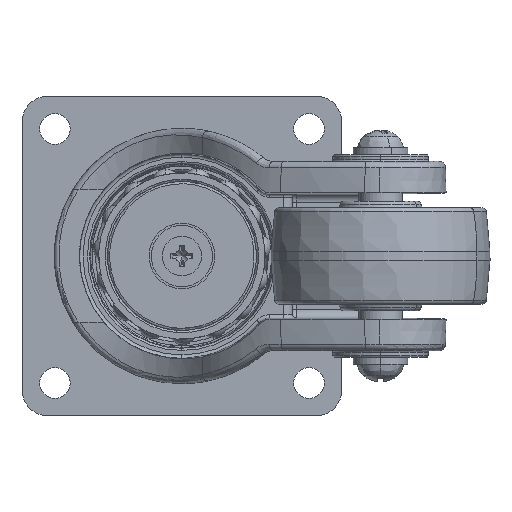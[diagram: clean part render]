
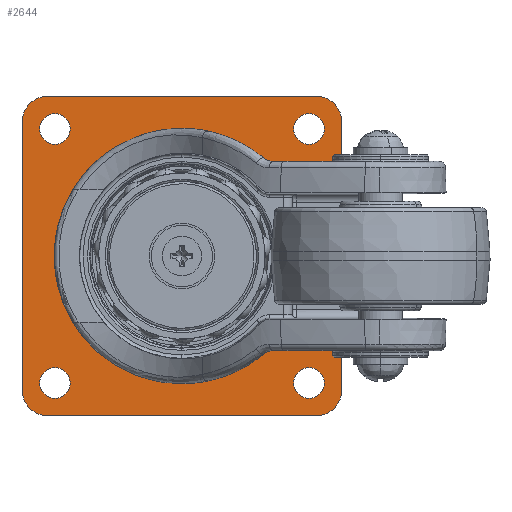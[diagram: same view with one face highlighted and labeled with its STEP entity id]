
A CAD part, front view. The second image highlights one B-rep face of the part: STEP entity #2644.
In plain terms, the highlighted planar face has unit normal (0, -1, 0).
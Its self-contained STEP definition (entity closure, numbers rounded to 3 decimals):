
#1548=PLANE('',#13444);
#2644=ADVANCED_FACE('',(#3355,#3356,#3357,#3358,#3359,#3360),#1548,.T.);
#3355=FACE_BOUND('',#3721,.T.);
#3356=FACE_BOUND('',#3722,.T.);
#3357=FACE_BOUND('',#3723,.T.);
#3358=FACE_BOUND('',#3724,.T.);
#3359=FACE_BOUND('',#3725,.T.);
#3360=FACE_BOUND('',#3726,.T.);
#3721=EDGE_LOOP('',(#6238,#6239));
#3722=EDGE_LOOP('',(#6240,#6241));
#3723=EDGE_LOOP('',(#6242,#6243));
#3724=EDGE_LOOP('',(#6244,#6245));
#3725=EDGE_LOOP('',(#6246,#6247));
#3726=EDGE_LOOP('',(#6248,#6249,#6250,#6251,#6252,#6253,#6254,#6255,#6256,
#6257,#6258,#6259));
#4543=B_SPLINE_CURVE_WITH_KNOTS('',3,(#24756,#24757,#24758,#24759),
 .UNSPECIFIED.,.F.,.F.,(4,4),(0.,1.),.UNSPECIFIED.);
#4544=B_SPLINE_CURVE_WITH_KNOTS('',3,(#24762,#24763,#24764,#24765),
 .UNSPECIFIED.,.F.,.F.,(4,4),(0.,1.),.UNSPECIFIED.);
#4545=B_SPLINE_CURVE_WITH_KNOTS('',3,(#24768,#24769,#24770,#24771),
 .UNSPECIFIED.,.F.,.F.,(4,4),(0.,1.),.UNSPECIFIED.);
#4546=B_SPLINE_CURVE_WITH_KNOTS('',3,(#24774,#24775,#24776,#24777),
 .UNSPECIFIED.,.F.,.F.,(4,4),(0.,1.),.UNSPECIFIED.);
#6238=ORIENTED_EDGE('',*,*,#10315,.F.);
#6239=ORIENTED_EDGE('',*,*,#10614,.F.);
#6240=ORIENTED_EDGE('',*,*,#10341,.T.);
#6241=ORIENTED_EDGE('',*,*,#10650,.T.);
#6242=ORIENTED_EDGE('',*,*,#10345,.T.);
#6243=ORIENTED_EDGE('',*,*,#10651,.T.);
#6244=ORIENTED_EDGE('',*,*,#10349,.T.);
#6245=ORIENTED_EDGE('',*,*,#10652,.T.);
#6246=ORIENTED_EDGE('',*,*,#10353,.T.);
#6247=ORIENTED_EDGE('',*,*,#10653,.T.);
#6248=ORIENTED_EDGE('',*,*,#10654,.T.);
#6249=ORIENTED_EDGE('',*,*,#10355,.T.);
#6250=ORIENTED_EDGE('',*,*,#10655,.T.);
#6251=ORIENTED_EDGE('',*,*,#10656,.T.);
#6252=ORIENTED_EDGE('',*,*,#10367,.T.);
#6253=ORIENTED_EDGE('',*,*,#10657,.T.);
#6254=ORIENTED_EDGE('',*,*,#10658,.T.);
#6255=ORIENTED_EDGE('',*,*,#10363,.T.);
#6256=ORIENTED_EDGE('',*,*,#10659,.T.);
#6257=ORIENTED_EDGE('',*,*,#10660,.T.);
#6258=ORIENTED_EDGE('',*,*,#10359,.T.);
#6259=ORIENTED_EDGE('',*,*,#10661,.T.);
#9020=VERTEX_POINT('',#22671);
#9021=VERTEX_POINT('',#22672);
#9037=VERTEX_POINT('',#22741);
#9038=VERTEX_POINT('',#22743);
#9041=VERTEX_POINT('',#22750);
#9042=VERTEX_POINT('',#22752);
#9045=VERTEX_POINT('',#22759);
#9046=VERTEX_POINT('',#22761);
#9049=VERTEX_POINT('',#22768);
#9050=VERTEX_POINT('',#22770);
#9051=VERTEX_POINT('',#22774);
#9052=VERTEX_POINT('',#22775);
#9055=VERTEX_POINT('',#22786);
#9056=VERTEX_POINT('',#22787);
#9059=VERTEX_POINT('',#22798);
#9060=VERTEX_POINT('',#22799);
#9063=VERTEX_POINT('',#22810);
#9064=VERTEX_POINT('',#22811);
#9197=VERTEX_POINT('',#24755);
#9198=VERTEX_POINT('',#24760);
#9199=VERTEX_POINT('',#24766);
#9200=VERTEX_POINT('',#24772);
#10315=EDGE_CURVE('',#9020,#9021,#12062,.T.);
#10341=EDGE_CURVE('',#9038,#9037,#12083,.T.);
#10345=EDGE_CURVE('',#9042,#9041,#12085,.T.);
#10349=EDGE_CURVE('',#9046,#9045,#12087,.T.);
#10353=EDGE_CURVE('',#9050,#9049,#12089,.T.);
#10355=EDGE_CURVE('',#9051,#9052,#12090,.T.);
#10359=EDGE_CURVE('',#9055,#9056,#12092,.T.);
#10363=EDGE_CURVE('',#9059,#9060,#12094,.T.);
#10367=EDGE_CURVE('',#9063,#9064,#12096,.T.);
#10614=EDGE_CURVE('',#9021,#9020,#12193,.T.);
#10650=EDGE_CURVE('',#9037,#9038,#12229,.T.);
#10651=EDGE_CURVE('',#9041,#9042,#12230,.T.);
#10652=EDGE_CURVE('',#9045,#9046,#12231,.T.);
#10653=EDGE_CURVE('',#9049,#9050,#12232,.T.);
#10654=EDGE_CURVE('',#9197,#9051,#12233,.T.);
#10655=EDGE_CURVE('',#9052,#9198,#4543,.T.);
#10656=EDGE_CURVE('',#9198,#9063,#12234,.T.);
#10657=EDGE_CURVE('',#9064,#9199,#4544,.T.);
#10658=EDGE_CURVE('',#9199,#9059,#12235,.T.);
#10659=EDGE_CURVE('',#9060,#9200,#4545,.T.);
#10660=EDGE_CURVE('',#9200,#9055,#12236,.T.);
#10661=EDGE_CURVE('',#9056,#9197,#4546,.T.);
#12062=CIRCLE('',#13131,28.);
#12083=CIRCLE('',#13156,3.5);
#12085=CIRCLE('',#13159,3.5);
#12087=CIRCLE('',#13162,3.5);
#12089=CIRCLE('',#13165,3.5);
#12090=CIRCLE('',#13167,6.);
#12092=CIRCLE('',#13170,6.);
#12094=CIRCLE('',#13173,6.);
#12096=CIRCLE('',#13176,6.);
#12193=CIRCLE('',#13380,28.);
#12229=CIRCLE('',#13436,3.5);
#12230=CIRCLE('',#13437,3.5);
#12231=CIRCLE('',#13438,3.5);
#12232=CIRCLE('',#13439,3.5);
#12233=CIRCLE('',#13440,6.);
#12234=CIRCLE('',#13441,6.);
#12235=CIRCLE('',#13442,6.);
#12236=CIRCLE('',#13443,6.);
#13131=AXIS2_PLACEMENT_3D('',#22670,#15223,#15224);
#13156=AXIS2_PLACEMENT_3D('',#22742,#15276,#15277);
#13159=AXIS2_PLACEMENT_3D('',#22751,#15284,#15285);
#13162=AXIS2_PLACEMENT_3D('',#22760,#15292,#15293);
#13165=AXIS2_PLACEMENT_3D('',#22769,#15300,#15301);
#13167=AXIS2_PLACEMENT_3D('',#22773,#15305,#15306);
#13170=AXIS2_PLACEMENT_3D('',#22785,#15312,#15313);
#13173=AXIS2_PLACEMENT_3D('',#22797,#15319,#15320);
#13176=AXIS2_PLACEMENT_3D('',#22809,#15326,#15327);
#13380=AXIS2_PLACEMENT_3D('',#24694,#15767,#15768);
#13436=AXIS2_PLACEMENT_3D('',#24750,#15879,#15880);
#13437=AXIS2_PLACEMENT_3D('',#24751,#15881,#15882);
#13438=AXIS2_PLACEMENT_3D('',#24752,#15883,#15884);
#13439=AXIS2_PLACEMENT_3D('',#24753,#15885,#15886);
#13440=AXIS2_PLACEMENT_3D('',#24754,#15887,#15888);
#13441=AXIS2_PLACEMENT_3D('',#24761,#15889,#15890);
#13442=AXIS2_PLACEMENT_3D('',#24767,#15891,#15892);
#13443=AXIS2_PLACEMENT_3D('',#24773,#15893,#15894);
#13444=AXIS2_PLACEMENT_3D('',#24778,#15895,#15896);
#15223=DIRECTION('',(0.,-1.,0.));
#15224=DIRECTION('',(1.,0.,0.));
#15276=DIRECTION('',(0.,1.,0.));
#15277=DIRECTION('',(1.,0.,0.));
#15284=DIRECTION('',(0.,1.,0.));
#15285=DIRECTION('',(1.,0.,0.));
#15292=DIRECTION('',(0.,1.,0.));
#15293=DIRECTION('',(1.,0.,0.));
#15300=DIRECTION('',(0.,1.,0.));
#15301=DIRECTION('',(1.,0.,0.));
#15305=DIRECTION('',(0.,-1.,0.));
#15306=DIRECTION('',(-1.,0.,0.));
#15312=DIRECTION('',(0.,-1.,0.));
#15313=DIRECTION('',(-1.,0.,0.));
#15319=DIRECTION('',(0.,-1.,0.));
#15320=DIRECTION('',(-1.,0.,0.));
#15326=DIRECTION('',(0.,-1.,0.));
#15327=DIRECTION('',(-1.,0.,0.));
#15767=DIRECTION('',(0.,-1.,0.));
#15768=DIRECTION('',(1.,0.,0.));
#15879=DIRECTION('',(0.,1.,0.));
#15880=DIRECTION('',(1.,0.,0.));
#15881=DIRECTION('',(0.,1.,0.));
#15882=DIRECTION('',(1.,0.,0.));
#15883=DIRECTION('',(0.,1.,0.));
#15884=DIRECTION('',(1.,0.,0.));
#15885=DIRECTION('',(0.,1.,0.));
#15886=DIRECTION('',(1.,0.,0.));
#15887=DIRECTION('',(0.,-1.,0.));
#15888=DIRECTION('',(-1.,0.,0.));
#15889=DIRECTION('',(0.,-1.,0.));
#15890=DIRECTION('',(-1.,0.,0.));
#15891=DIRECTION('',(0.,-1.,0.));
#15892=DIRECTION('',(-1.,0.,0.));
#15893=DIRECTION('',(0.,-1.,0.));
#15894=DIRECTION('',(-1.,0.,0.));
#15895=DIRECTION('',(0.,-1.,0.));
#15896=DIRECTION('',(1.,0.,0.));
#22670=CARTESIAN_POINT('',(3.827,32.77,-22.003));
#22671=CARTESIAN_POINT('',(3.827,32.77,5.997));
#22672=CARTESIAN_POINT('',(3.827,32.77,-50.003));
#22741=CARTESIAN_POINT('',(-25.173,32.77,-54.503));
#22742=CARTESIAN_POINT('',(-25.173,32.77,-51.003));
#22743=CARTESIAN_POINT('',(-25.173,32.77,-47.503));
#22750=CARTESIAN_POINT('',(32.827,32.77,-54.503));
#22751=CARTESIAN_POINT('',(32.827,32.77,-51.003));
#22752=CARTESIAN_POINT('',(32.827,32.77,-47.503));
#22759=CARTESIAN_POINT('',(-25.173,32.77,3.497));
#22760=CARTESIAN_POINT('',(-25.173,32.77,6.997));
#22761=CARTESIAN_POINT('',(-25.173,32.77,10.497));
#22768=CARTESIAN_POINT('',(32.827,32.77,3.497));
#22769=CARTESIAN_POINT('',(32.827,32.77,6.997));
#22770=CARTESIAN_POINT('',(32.827,32.77,10.497));
#22773=CARTESIAN_POINT('',(-26.673,32.77,-52.503));
#22774=CARTESIAN_POINT('',(-30.916,32.77,-56.746));
#22775=CARTESIAN_POINT('',(-26.673,32.77,-58.503));
#22785=CARTESIAN_POINT('',(-26.673,32.77,8.497));
#22786=CARTESIAN_POINT('',(-30.916,32.77,12.74));
#22787=CARTESIAN_POINT('',(-32.673,32.77,8.497));
#22797=CARTESIAN_POINT('',(34.327,32.77,8.497));
#22798=CARTESIAN_POINT('',(38.569,32.77,12.74));
#22799=CARTESIAN_POINT('',(34.327,32.77,14.497));
#22809=CARTESIAN_POINT('',(34.327,32.77,-52.503));
#22810=CARTESIAN_POINT('',(38.569,32.77,-56.746));
#22811=CARTESIAN_POINT('',(40.327,32.77,-52.503));
#24694=CARTESIAN_POINT('',(3.827,32.77,-22.003));
#24750=CARTESIAN_POINT('',(-25.173,32.77,-51.003));
#24751=CARTESIAN_POINT('',(32.827,32.77,-51.003));
#24752=CARTESIAN_POINT('',(-25.173,32.77,6.997));
#24753=CARTESIAN_POINT('',(32.827,32.77,6.997));
#24754=CARTESIAN_POINT('',(-26.673,32.77,-52.503));
#24755=CARTESIAN_POINT('',(-32.673,32.77,-52.503));
#24756=CARTESIAN_POINT('',(-26.673,32.77,-58.503));
#24757=CARTESIAN_POINT('',(-6.34,32.77,-58.503));
#24758=CARTESIAN_POINT('',(13.994,32.77,-58.503));
#24759=CARTESIAN_POINT('',(34.327,32.77,-58.503));
#24760=CARTESIAN_POINT('',(34.327,32.77,-58.503));
#24761=CARTESIAN_POINT('',(34.327,32.77,-52.503));
#24762=CARTESIAN_POINT('',(40.327,32.77,-52.503));
#24763=CARTESIAN_POINT('',(40.327,32.77,-32.17));
#24764=CARTESIAN_POINT('',(40.327,32.77,-11.836));
#24765=CARTESIAN_POINT('',(40.327,32.77,8.497));
#24766=CARTESIAN_POINT('',(40.327,32.77,8.497));
#24767=CARTESIAN_POINT('',(34.327,32.77,8.497));
#24768=CARTESIAN_POINT('',(34.327,32.77,14.497));
#24769=CARTESIAN_POINT('',(13.994,32.77,14.497));
#24770=CARTESIAN_POINT('',(-6.34,32.77,14.497));
#24771=CARTESIAN_POINT('',(-26.673,32.77,14.497));
#24772=CARTESIAN_POINT('',(-26.673,32.77,14.497));
#24773=CARTESIAN_POINT('',(-26.673,32.77,8.497));
#24774=CARTESIAN_POINT('',(-32.673,32.77,8.497));
#24775=CARTESIAN_POINT('',(-32.673,32.77,-11.836));
#24776=CARTESIAN_POINT('',(-32.673,32.77,-32.17));
#24777=CARTESIAN_POINT('',(-32.673,32.77,-52.503));
#24778=CARTESIAN_POINT('',(-28.097,32.77,-22.003));
